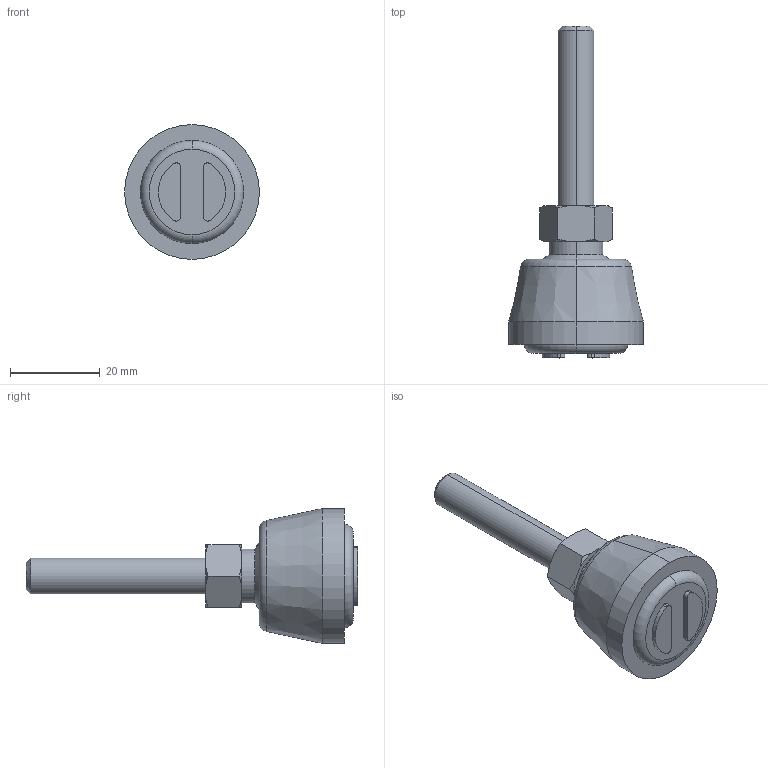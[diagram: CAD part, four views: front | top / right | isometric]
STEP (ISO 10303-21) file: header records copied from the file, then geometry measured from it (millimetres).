
FILE_DESCRIPTION (( 'STEP AP214' ), '1' );
FILE_NAME ('1.5018 S鳵t鐱alka D30 M8.STEP', '2025-09-17T08:17:18', ( '' ), ( '' ), 'SwSTEP 2.0', 'SolidWorks 2025', '' );
FILE_SCHEMA (( 'AUTOMOTIVE_DESIGN' ));
Length unit declared in the file: millimetre
Products named in the file (1): 1.5018 Säätöjalka D30 M8
Bounding box: 30 x 73.9 x 30 mm (x, y, z)
Volume: 16226.4 mm3; surface area: 4644.8 mm2
Topology: 1 solids, 1 shells, 57 faces, 134 edges, 86 vertices
Faces by surface type: cylinder 18, cone 18, plane 17, torus 4
Entity records: 2279 total; most frequent: CARTESIAN_POINT 382, DIRECTION 288, ORIENTED_EDGE 268, EDGE_CURVE 134, AXIS2_PLACEMENT_3D 120, VERTEX_POINT 86, EDGE_LOOP 64, CIRCLE 62
